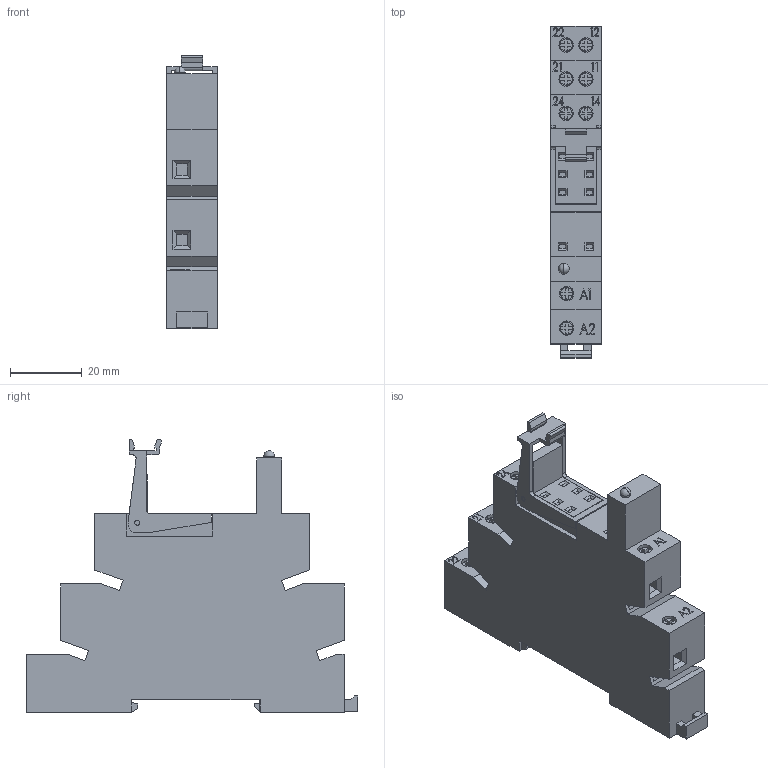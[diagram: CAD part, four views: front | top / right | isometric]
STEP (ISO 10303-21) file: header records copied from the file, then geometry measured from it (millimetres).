
FILE_DESCRIPTION (( 'STEP AP214' ), '1' );
FILE_NAME ('CRINT-C21x.STEP', '2024-04-04T12:59:37', ( '' ), ( '' ), 'SwSTEP 2.0', 'SolidWorks 2022', '' );
FILE_SCHEMA (( 'AUTOMOTIVE_DESIGN' ));
Length unit declared in the file: millimetre
Products named in the file (1): CRINT-C21x
Bounding box: 14 x 92.45 x 76.05 mm (x, y, z)
Volume: 56078.7 mm3; surface area: 17344.1 mm2
Topology: 1 solids, 1 shells, 628 faces, 1634 edges, 1065 vertices
Faces by surface type: plane 538, cylinder 52, bspline 36, sphere 2
Entity records: 23729 total; most frequent: CARTESIAN_POINT 5762, ORIENTED_EDGE 3264, DIRECTION 2886, EDGE_CURVE 1632, LINE 1420, VECTOR 1420, VERTEX_POINT 1065, AXIS2_PLACEMENT_3D 733
